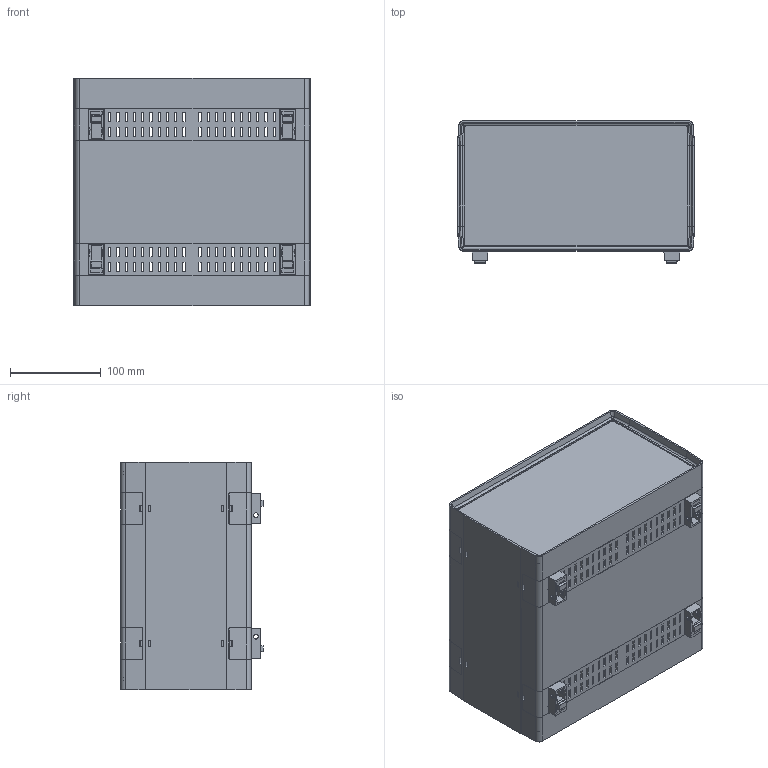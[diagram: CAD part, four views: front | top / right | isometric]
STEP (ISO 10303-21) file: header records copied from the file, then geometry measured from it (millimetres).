
FILE_DESCRIPTION (( 'STEP AP214' ), '1' );
FILE_NAME ('ES-30-V.STEP', '2020-09-06T20:16:21', ( 'Rudy' ), ( '' ), 'SwSTEP 2.0', 'SolidWorks 2014', '' );
FILE_SCHEMA (( 'AUTOMOTIVE_DESIGN' ));
Length unit declared in the file: inch
Products named in the file (7): ES-30-V; AET-010; EPS-30; Rubber foot; AET-019; AET-012; 10 inch Euro Tech
Assembly tree (14 placements, depth 2):
  ES-30-V
    10 inch Euro Tech  x2
    AET-012  x2
    AET-019  x2
    Rubber foot  x4
    EPS-30  x2
    AET-010  x2
Bounding box: 260.83 x 156.72 x 250.19 mm (x, y, z)
Volume: 901650.9 mm3; surface area: 784712.7 mm2
Topology: 26 solids, 26 shells, 6418 faces, 18142 edges, 11952 vertices
Faces by surface type: plane 5332, cylinder 698, cone 272, sphere 60, torus 48, bspline 8
Entity records: 102648 total; most frequent: CARTESIAN_POINT 19091, ORIENTED_EDGE 17854, DIRECTION 16158, EDGE_CURVE 8927, VECTOR 7340, LINE 7340, VERTEX_POINT 5912, AXIS2_PLACEMENT_3D 4409
